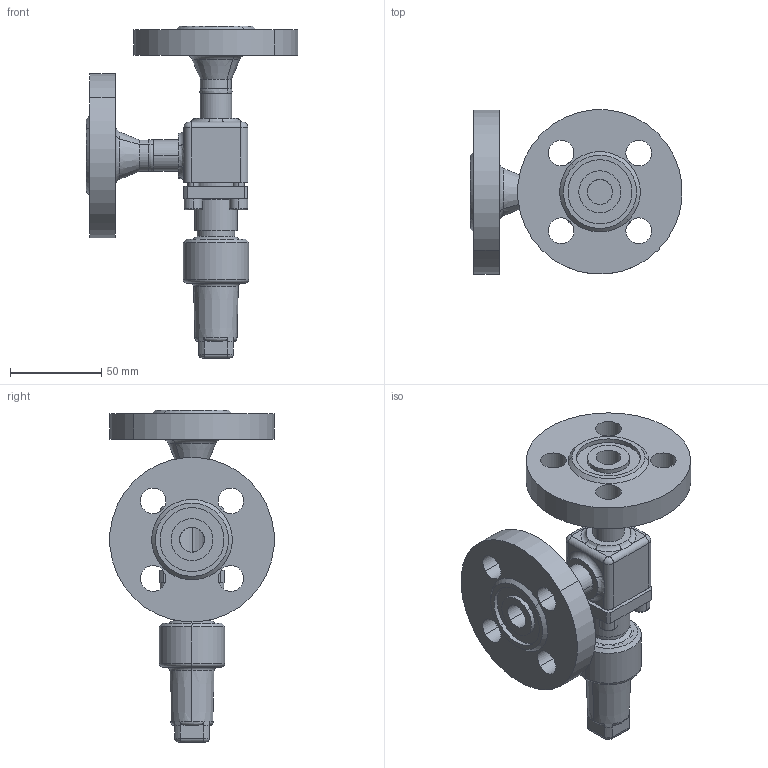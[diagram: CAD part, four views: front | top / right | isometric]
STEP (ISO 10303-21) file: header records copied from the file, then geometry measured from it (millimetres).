
FILE_DESCRIPTION (( 'STEP AP214' ), '1' );
FILE_NAME ('HRAR92420-DN010_DIN-FL-N_PS40.STEP', '2006-05-02T07:37:59', ( 'Herr Grams' ), ( 'AWP GmbH' ), 'SwSTEP 2.0', 'SolidWorks 2002296', '' );
FILE_SCHEMA (( 'AUTOMOTIVE_DESIGN' ));
Length unit declared in the file: millimetre
Products named in the file (10): HRAR92420-DN010_DIN-FL-N_PS40; AVR96300E10_Deck+Schr-DN6-15_Standard; Deckel96300E10-DN6-15_PS40_Standard; Zylinderschraube-DIN912_M 6x 18; Geh-kpl96420E08-DN10_PS40_DIN-FL_Standard; bead964-DN010-1_Standard; bead964-DN010-2_Standard; Gehäuse96400E08-DN10_PS40_R1_Standard; Flansch-DIN2635-Nut_PS40_DIN-Flansch-DN010_PS40-Nut; Kappe96300E10_DN6-20_Standard
Assembly tree (13 placements, depth 3):
  HRAR92420-DN010_DIN-FL-N_PS40
    Kappe96300E10_DN6-20_Standard
    AVR96300E10_Deck+Schr-DN6-15_Standard
      Zylinderschraube-DIN912_M 6x 18  x4
      Deckel96300E10-DN6-15_PS40_Standard
    Geh-kpl96420E08-DN10_PS40_DIN-FL_Standard
      bead964-DN010-1_Standard
      Gehäuse96400E08-DN10_PS40_R1_Standard
      Flansch-DIN2635-Nut_PS40_DIN-Flansch-DN010_PS40-Nut  x2
      bead964-DN010-2_Standard
Bounding box: 115.83 x 89.66 x 181.5 mm (x, y, z)
Volume: 257891.2 mm3; surface area: 73523.7 mm2
Topology: 11 solids, 11 shells, 311 faces, 696 edges, 431 vertices
Faces by surface type: cylinder 120, plane 94, cone 44, torus 38, bspline 15
Entity records: 13540 total; most frequent: CARTESIAN_POINT 7579, DIRECTION 1154, ORIENTED_EDGE 1020, EDGE_CURVE 510, AXIS2_PLACEMENT_3D 486, VERTEX_POINT 313, EDGE_LOOP 265, CIRCLE 258
